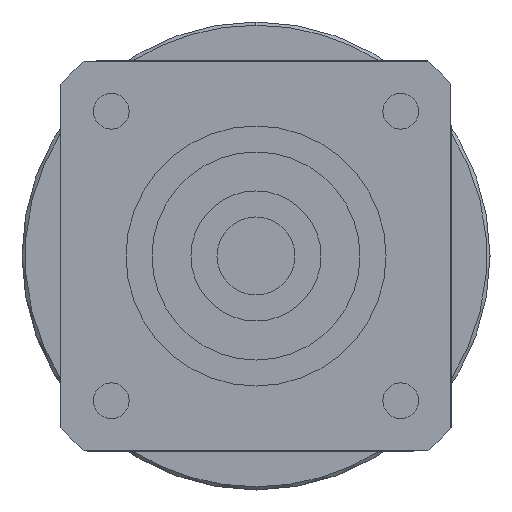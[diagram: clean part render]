
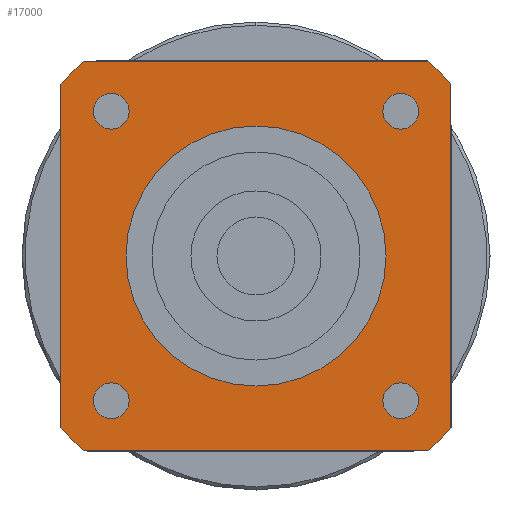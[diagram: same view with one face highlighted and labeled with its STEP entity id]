
A CAD part, left-side view. The second image highlights one B-rep face of the part: STEP entity #17000.
In plain terms, the highlighted planar face has unit normal (-1, 0, 0) as drawn and (0, 0, -1) by its records, which use the part's own axes.
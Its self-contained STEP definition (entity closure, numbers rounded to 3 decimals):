
#12050=CARTESIAN_POINT('',(-30.,-26.458,-91.));
#12060=VERTEX_POINT('',#12050);
#12220=CARTESIAN_POINT('',(-26.458,-30.,-91.));
#12230=VERTEX_POINT('',#12220);
#12260=CARTESIAN_POINT('',(0.,0.,
-91.));
#12270=DIRECTION('',(0.,0.,1.));
#12280=DIRECTION('',(0.,-1.,0.));
#12290=AXIS2_PLACEMENT_3D('',#12260,#12270,#12280);
#12300=CIRCLE('',#12290,40.);
#12310=EDGE_CURVE('',#12060,#12230,#12300,.T.);
#12470=CARTESIAN_POINT('',(26.458,30.,-91.));
#12480=VERTEX_POINT('',#12470);
#12750=CARTESIAN_POINT('',(-26.458,30.,-91.));
#12760=VERTEX_POINT('',#12750);
#12790=CARTESIAN_POINT('',(30.,30.,-91.));
#12800=DIRECTION('',(-1.,0.,0.));
#12810=VECTOR('',#12800,1000.);
#12820=LINE('',#12790,#12810);
#12830=EDGE_CURVE('',#12480,#12760,#12820,.T.);
#14670=CARTESIAN_POINT('',(30.,-26.458,-91.));
#14680=VERTEX_POINT('',#14670);
#14860=CARTESIAN_POINT('',(30.,26.458,-91.));
#14870=VERTEX_POINT('',#14860);
#14900=CARTESIAN_POINT('',(30.,-30.,-91.));
#14910=DIRECTION('',(0.,1.,0.));
#14920=VECTOR('',#14910,1000.);
#14930=LINE('',#14900,#14920);
#14940=EDGE_CURVE('',#14680,#14870,#14930,.T.);
#15520=CARTESIAN_POINT('',(26.458,-30.,-91.));
#15530=VERTEX_POINT('',#15520);
#15560=CARTESIAN_POINT('',(-30.,-30.,-91.));
#15570=DIRECTION('',(1.,0.,0.));
#15580=VECTOR('',#15570,1000.);
#15590=LINE('',#15560,#15580);
#15600=EDGE_CURVE('',#12230,#15530,#15590,.T.);
#15650=CARTESIAN_POINT('',(-30.,30.,-91.));
#15660=DIRECTION('',(0.,0.,1.));
#15670=DIRECTION('',(-1.,0.,0.));
#15680=AXIS2_PLACEMENT_3D('',#15650,#15660,#15670);
#15690=PLANE('',#15680);
#15700=CARTESIAN_POINT('',(22.274,-22.274,-91.));
#15710=DIRECTION('',(0.,0.,-1.));
#15720=DIRECTION('',(1.,0.,0.));
#15730=AXIS2_PLACEMENT_3D('',#15700,#15710,#15720);
#15740=CIRCLE('',#15730,2.75);
#15750=CARTESIAN_POINT('',(25.024,-22.274,-91.));
#15760=VERTEX_POINT('',#15750);
#15770=CARTESIAN_POINT('',(22.274,-25.024,-91.));
#15780=VERTEX_POINT('',#15770);
#15790=EDGE_CURVE('',#15760,#15780,#15740,.T.);
#15800=ORIENTED_EDGE('',*,*,#15790,.F.);
#15810=CARTESIAN_POINT('',(22.274,-19.524,-91.));
#15820=VERTEX_POINT('',#15810);
#15830=EDGE_CURVE('',#15780,#15820,#15740,.T.);
#15840=ORIENTED_EDGE('',*,*,#15830,.F.);
#15850=EDGE_CURVE('',#15820,#15760,#15740,.T.);
#15860=ORIENTED_EDGE('',*,*,#15850,.F.);
#15870=EDGE_LOOP('',(#15860,#15840,#15800));
#15880=FACE_BOUND('',#15870,.T.);
#15890=CARTESIAN_POINT('',(22.274,22.274,-91.));
#15900=DIRECTION('',(0.,0.,-1.));
#15910=DIRECTION('',(0.,1.,0.));
#15920=AXIS2_PLACEMENT_3D('',#15890,#15900,#15910);
#15930=CIRCLE('',#15920,2.75);
#15940=CARTESIAN_POINT('',(22.274,25.024,-91.));
#15950=VERTEX_POINT('',#15940);
#15960=CARTESIAN_POINT('',(25.024,22.274,-91.));
#15970=VERTEX_POINT('',#15960);
#15980=EDGE_CURVE('',#15950,#15970,#15930,.T.);
#15990=ORIENTED_EDGE('',*,*,#15980,.F.);
#16000=CARTESIAN_POINT('',(19.524,22.274,-91.));
#16010=VERTEX_POINT('',#16000);
#16020=EDGE_CURVE('',#15970,#16010,#15930,.T.);
#16030=ORIENTED_EDGE('',*,*,#16020,.F.);
#16040=EDGE_CURVE('',#16010,#15950,#15930,.T.);
#16050=ORIENTED_EDGE('',*,*,#16040,.F.);
#16060=EDGE_LOOP('',(#16050,#16030,#15990));
#16070=FACE_BOUND('',#16060,.T.);
#16080=CARTESIAN_POINT('',(-22.274,22.274,-91.));
#16090=DIRECTION('',(0.,0.,-1.));
#16100=DIRECTION('',(-1.,0.,0.));
#16110=AXIS2_PLACEMENT_3D('',#16080,#16090,#16100);
#16120=CIRCLE('',#16110,2.75);
#16130=CARTESIAN_POINT('',(-25.024,22.274,-91.));
#16140=VERTEX_POINT('',#16130);
#16150=CARTESIAN_POINT('',(-22.274,25.024,-91.));
#16160=VERTEX_POINT('',#16150);
#16170=EDGE_CURVE('',#16140,#16160,#16120,.T.);
#16180=ORIENTED_EDGE('',*,*,#16170,.F.);
#16190=CARTESIAN_POINT('',(-22.274,19.524,-91.));
#16200=VERTEX_POINT('',#16190);
#16210=EDGE_CURVE('',#16160,#16200,#16120,.T.);
#16220=ORIENTED_EDGE('',*,*,#16210,.F.);
#16230=EDGE_CURVE('',#16200,#16140,#16120,.T.);
#16240=ORIENTED_EDGE('',*,*,#16230,.F.);
#16250=EDGE_LOOP('',(#16240,#16220,#16180));
#16260=FACE_BOUND('',#16250,.T.);
#16270=CARTESIAN_POINT('',(-22.274,-22.274,-91.));
#16280=DIRECTION('',(0.,0.,-1.));
#16290=DIRECTION('',(0.,-1.,0.));
#16300=AXIS2_PLACEMENT_3D('',#16270,#16280,#16290);
#16310=CIRCLE('',#16300,2.75);
#16320=CARTESIAN_POINT('',(-22.274,-25.024,-91.));
#16330=VERTEX_POINT('',#16320);
#16340=CARTESIAN_POINT('',(-25.024,-22.274,-91.));
#16350=VERTEX_POINT('',#16340);
#16360=EDGE_CURVE('',#16330,#16350,#16310,.T.);
#16370=ORIENTED_EDGE('',*,*,#16360,.F.);
#16380=CARTESIAN_POINT('',(-19.524,-22.274,-91.));
#16390=VERTEX_POINT('',#16380);
#16400=EDGE_CURVE('',#16350,#16390,#16310,.T.);
#16410=ORIENTED_EDGE('',*,*,#16400,.F.);
#16420=EDGE_CURVE('',#16390,#16330,#16310,.T.);
#16430=ORIENTED_EDGE('',*,*,#16420,.F.);
#16440=EDGE_LOOP('',(#16430,#16410,#16370));
#16450=FACE_BOUND('',#16440,.T.);
#16460=ORIENTED_EDGE('',*,*,#12310,.F.);
#16470=ORIENTED_EDGE('',*,*,#15600,.F.);
#16480=CARTESIAN_POINT('',(0.,0.,
-91.));
#16490=DIRECTION('',(0.,0.,1.));
#16500=DIRECTION('',(0.,-1.,0.));
#16510=AXIS2_PLACEMENT_3D('',#16480,#16490,#16500);
#16520=CIRCLE('',#16510,40.);
#16530=EDGE_CURVE('',#15530,#14680,#16520,.T.);
#16540=ORIENTED_EDGE('',*,*,#16530,.F.);
#16550=ORIENTED_EDGE('',*,*,#14940,.F.);
#16560=CARTESIAN_POINT('',(0.,0.,
-91.));
#16570=DIRECTION('',(0.,0.,1.));
#16580=DIRECTION('',(0.,-1.,0.));
#16590=AXIS2_PLACEMENT_3D('',#16560,#16570,#16580);
#16600=CIRCLE('',#16590,40.);
#16610=EDGE_CURVE('',#14870,#12480,#16600,.T.);
#16620=ORIENTED_EDGE('',*,*,#16610,.F.);
#16630=ORIENTED_EDGE('',*,*,#12830,.F.);
#16640=CARTESIAN_POINT('',(0.,0.,
-91.));
#16650=DIRECTION('',(0.,0.,1.));
#16660=DIRECTION('',(0.,-1.,0.));
#16670=AXIS2_PLACEMENT_3D('',#16640,#16650,#16660);
#16680=CIRCLE('',#16670,40.);
#16690=CARTESIAN_POINT('',(-30.,26.458,-91.));
#16700=VERTEX_POINT('',#16690);
#16710=EDGE_CURVE('',#12760,#16700,#16680,.T.);
#16720=ORIENTED_EDGE('',*,*,#16710,.F.);
#16730=CARTESIAN_POINT('',(-30.,30.,-91.));
#16740=DIRECTION('',(0.,-1.,0.));
#16750=VECTOR('',#16740,1000.);
#16760=LINE('',#16730,#16750);
#16770=EDGE_CURVE('',#16700,#12060,#16760,.T.);
#16780=ORIENTED_EDGE('',*,*,#16770,.F.);
#16790=EDGE_LOOP('',(#16780,#16720,#16630,#16620,#16550,#16540,#16470,
#16460));
#16800=FACE_OUTER_BOUND('',#16790,.T.);
#16810=CARTESIAN_POINT('',(0.,0.,
-91.));
#16820=DIRECTION('',(0.,0.,1.));
#16830=DIRECTION('',(0.,-1.,0.));
#16840=AXIS2_PLACEMENT_3D('',#16810,#16820,#16830);
#16850=CIRCLE('',#16840,20.);
#16860=CARTESIAN_POINT('',(20.,0.,-91.));
#16870=VERTEX_POINT('',#16860);
#16880=CARTESIAN_POINT('',(-20.,0.,-91.));
#16890=VERTEX_POINT('',#16880);
#16900=EDGE_CURVE('',#16870,#16890,#16850,.T.);
#16910=ORIENTED_EDGE('',*,*,#16900,.T.);
#16920=CARTESIAN_POINT('',(0.,-20.,-91.));
#16930=VERTEX_POINT('',#16920);
#16940=EDGE_CURVE('',#16930,#16870,#16850,.T.);
#16950=ORIENTED_EDGE('',*,*,#16940,.T.);
#16960=EDGE_CURVE('',#16890,#16930,#16850,.T.);
#16970=ORIENTED_EDGE('',*,*,#16960,.T.);
#16980=EDGE_LOOP('',(#16970,#16950,#16910));
#16990=FACE_BOUND('',#16980,.T.);
#17000=ADVANCED_FACE('',(#15880,#16070,#16260,#16450,#16800,#16990),
#15690,.F.);
